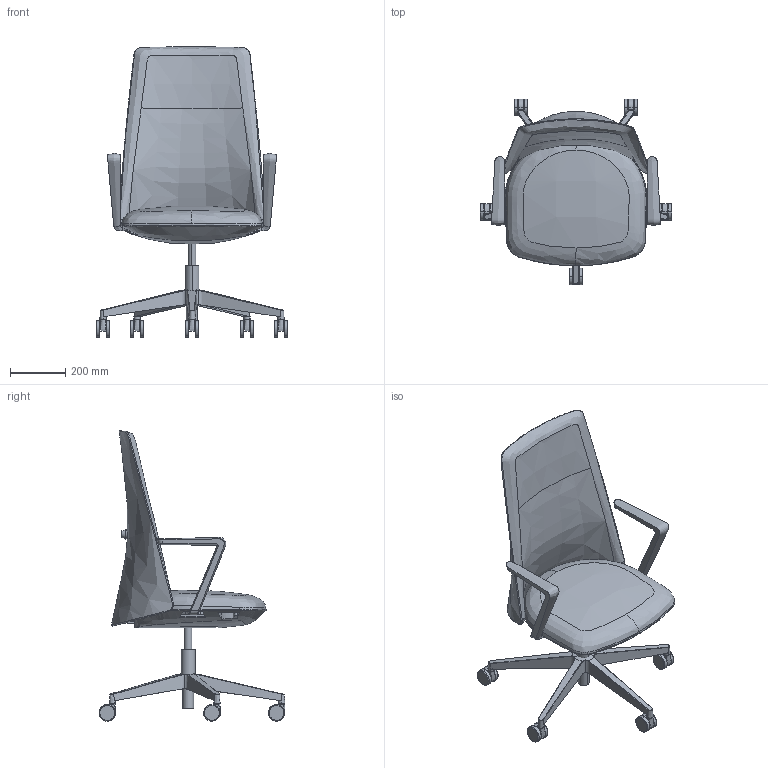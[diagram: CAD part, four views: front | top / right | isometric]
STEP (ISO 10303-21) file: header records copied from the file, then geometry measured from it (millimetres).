
FILE_DESCRIPTION(/* description */ (''),/* implementation_level */ '2;1');
FILE_NAME(/* name */ 'MELODY~2',/* time_stamp */ '2016-11-30T15:40:09+01:00',/* author */ (''),/* organization */ (''),/* preprocessor_version */ 'ST-DEVELOPER v15',/* originating_system */ '',/* authorisation */ '');
FILE_SCHEMA (('CONFIG_CONTROL_DESIGN'));
Length unit declared in the file: millimetre
Products named in the file (1): Document
Bounding box: 694.82 x 673.73 x 1051.81 mm (x, y, z)
Volume: 33222327 mm3; surface area: 2154690.4 mm2
Topology: 8 solids, 31 shells, 312 faces, 771 edges, 470 vertices
Faces by surface type: bspline 218, plane 94
Entity records: 20761 total; most frequent: CARTESIAN_POINT 16288, ORIENTED_EDGE 1381, EDGE_CURVE 753, VERTEX_POINT 464, B_SPLINE_CURVE_WITH_KNOTS 408, EDGE_LOOP 314, ADVANCED_FACE 312, FACE_OUTER_BOUND 312
